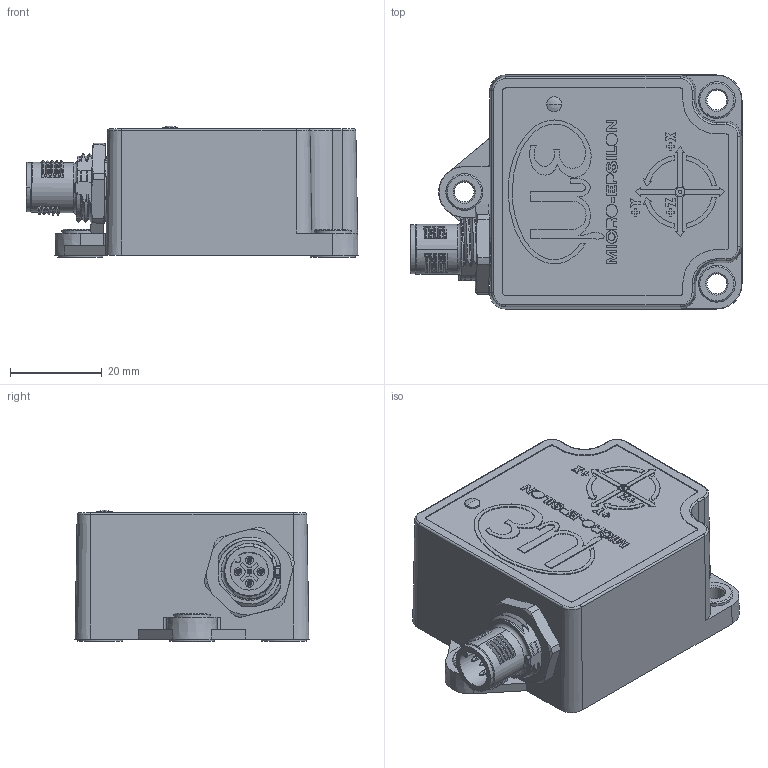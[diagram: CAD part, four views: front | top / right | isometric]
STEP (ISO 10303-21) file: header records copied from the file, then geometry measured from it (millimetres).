
FILE_DESCRIPTION (( 'STEP AP214' ), '1' );
FILE_NAME ('AccIS12 V3.3_LED_1xM12_einseitig_defeature.STEP', '2023-01-26T13:17:25', ( '' ), ( '' ), 'SwSTEP 2.0', 'SolidWorks 2019', '' );
FILE_SCHEMA (( 'AUTOMOTIVE_DESIGN' ));
Length unit declared in the file: millimetre
Products named in the file (1): AccIS12 V3.3_LED_1xM12_einseitig_defeature
Bounding box: 72.3 x 50.96 x 28.66 mm (x, y, z)
Volume: 72461.5 mm3; surface area: 14326.2 mm2
Topology: 1 solids, 1 shells, 810 faces, 2167 edges, 1423 vertices
Faces by surface type: plane 366, bspline 221, cylinder 123, cone 62, torus 34, sphere 4
Full cylindrical faces by diameter (mm): 0.7 x1, 2 x1, 4.3 x3, 8 x3, 9.8 x2
Entity records: 34406 total; most frequent: CARTESIAN_POINT 12315, ORIENTED_EDGE 4258, DIRECTION 3191, EDGE_CURVE 2129, VERTEX_POINT 1410, LINE 1229, VECTOR 1229, AXIS2_PLACEMENT_3D 981
